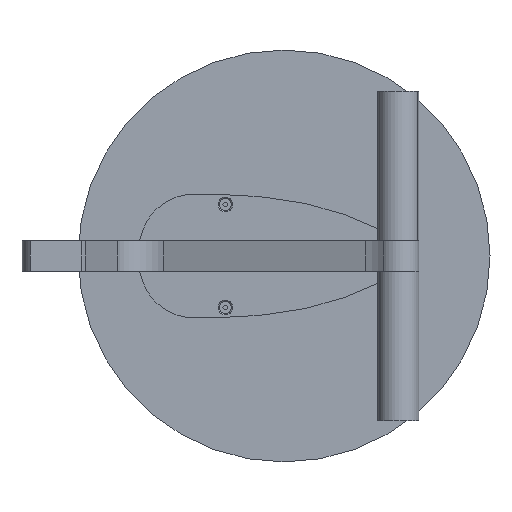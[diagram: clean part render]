
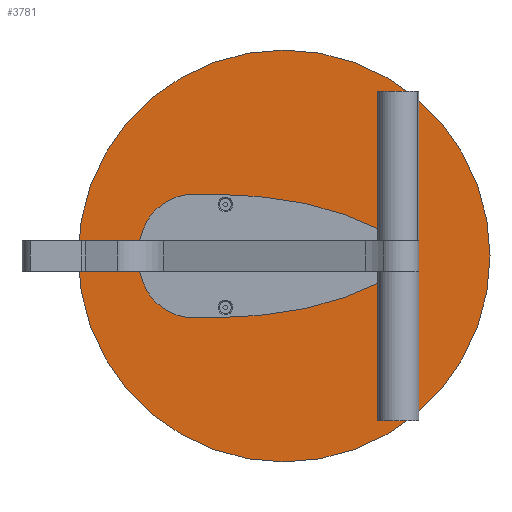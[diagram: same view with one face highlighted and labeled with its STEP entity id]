
A CAD part, front view. The second image highlights one B-rep face of the part: STEP entity #3781.
In plain terms, the highlighted planar face has unit normal (0, -1, 0).
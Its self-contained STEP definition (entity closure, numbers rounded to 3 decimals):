
#57 = CIRCLE ( 'NONE', #2667, 3. ) ;
#73 = ORIENTED_EDGE ( 'NONE', *, *, #123, .F. ) ;
#83 = ORIENTED_EDGE ( 'NONE', *, *, #2536, .F. ) ;
#123 = EDGE_CURVE ( 'NONE', #1171, #2447, #57, .T. ) ;
#162 = PLANE ( 'NONE',  #1747 ) ;
#166 = CIRCLE ( 'NONE', #3343, 3. ) ;
#507 = AXIS2_PLACEMENT_3D ( 'NONE', #3284, #2665, #737 ) ;
#543 = EDGE_CURVE ( 'NONE', #1496, #2264, #969, .T. ) ;
#714 = AXIS2_PLACEMENT_3D ( 'NONE', #1908, #3517, #1555 ) ;
#722 = EDGE_LOOP ( 'NONE', ( #823, #73 ) ) ;
#737 = DIRECTION ( 'NONE',  ( 0., 0., 1. ) ) ;
#803 = CARTESIAN_POINT ( 'NONE',  ( 0., 0., 0. ) ) ;
#812 = DIRECTION ( 'NONE',  ( -1., 0., 0. ) ) ;
#823 = ORIENTED_EDGE ( 'NONE', *, *, #836, .F. ) ;
#836 = EDGE_CURVE ( 'NONE', #2447, #1171, #1198, .T. ) ;
#888 = CARTESIAN_POINT ( 'NONE',  ( -57., 0., 53. ) ) ;
#950 = EDGE_CURVE ( 'NONE', #2043, #1340, #3537, .T. ) ;
#969 = CIRCLE ( 'NONE', #714, 3. ) ;
#982 = DIRECTION ( 'NONE',  ( 0., -1., 0. ) ) ;
#1028 = EDGE_CURVE ( 'NONE', #2264, #1496, #3780, .T. ) ;
#1031 = VERTEX_POINT ( 'NONE', #3339 ) ;
#1054 = CIRCLE ( 'NONE', #2468, 200. ) ;
#1131 = AXIS2_PLACEMENT_3D ( 'NONE', #1885, #982, #2870 ) ;
#1171 = VERTEX_POINT ( 'NONE', #888 ) ;
#1180 = ORIENTED_EDGE ( 'NONE', *, *, #2118, .F. ) ;
#1198 = CIRCLE ( 'NONE', #507, 3. ) ;
#1203 = FACE_BOUND ( 'NONE', #2205, .T. ) ;
#1340 = VERTEX_POINT ( 'NONE', #3840 ) ;
#1467 = CARTESIAN_POINT ( 'NONE',  ( 0., 0., 0. ) ) ;
#1474 = ORIENTED_EDGE ( 'NONE', *, *, #543, .F. ) ;
#1496 = VERTEX_POINT ( 'NONE', #2798 ) ;
#1504 = AXIS2_PLACEMENT_3D ( 'NONE', #2694, #3691, #812 ) ;
#1555 = DIRECTION ( 'NONE',  ( 0., 0., -1. ) ) ;
#1595 = CIRCLE ( 'NONE', #1131, 3. ) ;
#1703 = DIRECTION ( 'NONE',  ( 0., 1., 0. ) ) ;
#1704 = FACE_BOUND ( 'NONE', #2752, .T. ) ;
#1747 = AXIS2_PLACEMENT_3D ( 'NONE', #803, #1703, #3011 ) ;
#1885 = CARTESIAN_POINT ( 'NONE',  ( -57., 0., -50. ) ) ;
#1908 = CARTESIAN_POINT ( 'NONE',  ( 95., 0., 0. ) ) ;
#2032 = FACE_OUTER_BOUND ( 'NONE', #4044, .T. ) ;
#2043 = VERTEX_POINT ( 'NONE', #3054 ) ;
#2066 = CARTESIAN_POINT ( 'NONE',  ( 95., 0., 0. ) ) ;
#2112 = DIRECTION ( 'NONE',  ( 0., -1., 0. ) ) ;
#2118 = EDGE_CURVE ( 'NONE', #1031, #3255, #1595, .T. ) ;
#2205 = EDGE_LOOP ( 'NONE', ( #1180, #2590 ) ) ;
#2264 = VERTEX_POINT ( 'NONE', #3532 ) ;
#2398 = CARTESIAN_POINT ( 'NONE',  ( -57., 0., -47. ) ) ;
#2428 = CARTESIAN_POINT ( 'NONE',  ( -57., 0., -50. ) ) ;
#2447 = VERTEX_POINT ( 'NONE', #2958 ) ;
#2468 = AXIS2_PLACEMENT_3D ( 'NONE', #1467, #3685, #3074 ) ;
#2472 = DIRECTION ( 'NONE',  ( 0., 0., -1. ) ) ;
#2507 = ORIENTED_EDGE ( 'NONE', *, *, #950, .F. ) ;
#2536 = EDGE_CURVE ( 'NONE', #1340, #2043, #1054, .T. ) ;
#2590 = ORIENTED_EDGE ( 'NONE', *, *, #3326, .F. ) ;
#2623 = DIRECTION ( 'NONE',  ( 0., 0., 1. ) ) ;
#2651 = CARTESIAN_POINT ( 'NONE',  ( -57., 0., 50. ) ) ;
#2665 = DIRECTION ( 'NONE',  ( 0., -1., 0. ) ) ;
#2667 = AXIS2_PLACEMENT_3D ( 'NONE', #2651, #3886, #2623 ) ;
#2694 = CARTESIAN_POINT ( 'NONE',  ( 0., 0., 0. ) ) ;
#2752 = EDGE_LOOP ( 'NONE', ( #1474, #3275 ) ) ;
#2764 = AXIS2_PLACEMENT_3D ( 'NONE', #2066, #3352, #2992 ) ;
#2798 = CARTESIAN_POINT ( 'NONE',  ( 95., 0., -3. ) ) ;
#2870 = DIRECTION ( 'NONE',  ( 0., 0., -1. ) ) ;
#2958 = CARTESIAN_POINT ( 'NONE',  ( -57., 0., 47. ) ) ;
#2992 = DIRECTION ( 'NONE',  ( 0., 0., -1. ) ) ;
#3011 = DIRECTION ( 'NONE',  ( -1., 0., 0. ) ) ;
#3054 = CARTESIAN_POINT ( 'NONE',  ( -200., 0., 0. ) ) ;
#3074 = DIRECTION ( 'NONE',  ( -1., 0., 0. ) ) ;
#3255 = VERTEX_POINT ( 'NONE', #2398 ) ;
#3275 = ORIENTED_EDGE ( 'NONE', *, *, #1028, .F. ) ;
#3284 = CARTESIAN_POINT ( 'NONE',  ( -57., 0., 50. ) ) ;
#3326 = EDGE_CURVE ( 'NONE', #3255, #1031, #166, .T. ) ;
#3339 = CARTESIAN_POINT ( 'NONE',  ( -57., 0., -53. ) ) ;
#3343 = AXIS2_PLACEMENT_3D ( 'NONE', #2428, #2112, #2472 ) ;
#3352 = DIRECTION ( 'NONE',  ( 0., -1., 0. ) ) ;
#3441 = FACE_BOUND ( 'NONE', #722, .T. ) ;
#3517 = DIRECTION ( 'NONE',  ( 0., -1., 0. ) ) ;
#3532 = CARTESIAN_POINT ( 'NONE',  ( 95., 0., 3. ) ) ;
#3537 = CIRCLE ( 'NONE', #1504, 200. ) ;
#3685 = DIRECTION ( 'NONE',  ( 0., 1., 0. ) ) ;
#3691 = DIRECTION ( 'NONE',  ( 0., 1., 0. ) ) ;
#3780 = CIRCLE ( 'NONE', #2764, 3. ) ;
#3781 = ADVANCED_FACE ( 'NONE', ( #1203, #3441, #1704, #2032 ), #162, .F. ) ;
#3840 = CARTESIAN_POINT ( 'NONE',  ( 200., 0., 0. ) ) ;
#3886 = DIRECTION ( 'NONE',  ( 0., -1., 0. ) ) ;
#4044 = EDGE_LOOP ( 'NONE', ( #2507, #83 ) ) ;
